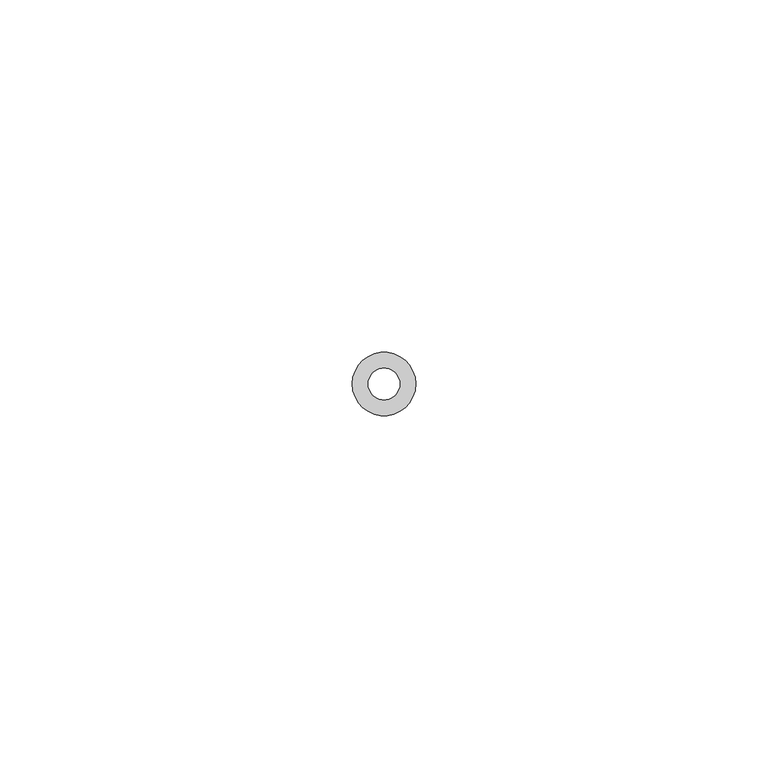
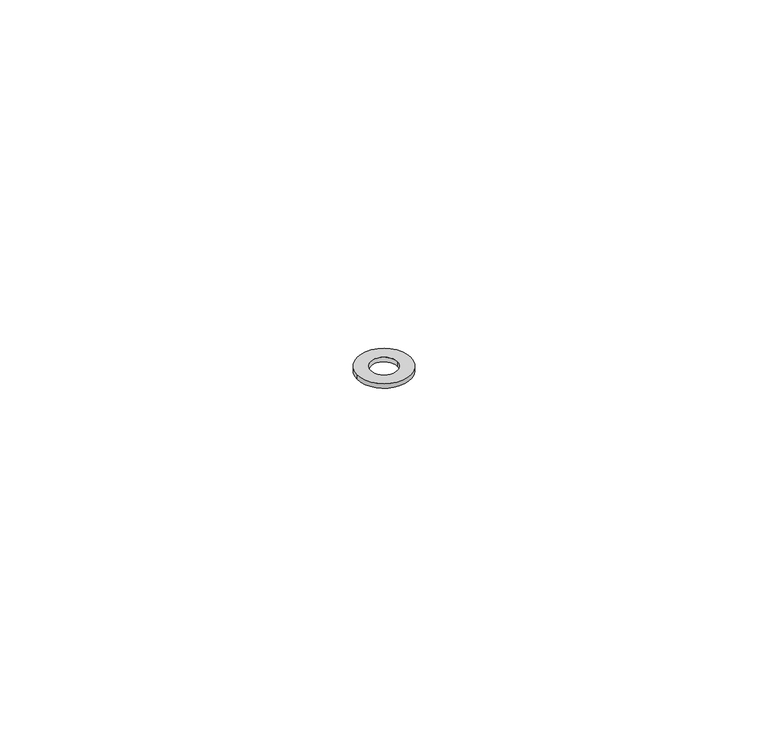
"""IFC4 building model written with IfcOpenShell, lengths in millimetres: valve geometry, Superfix Flat Washer : Superfix Flat Washer Extra + M4x10x1."""

from ifc_helpers import new_model, si_unit, point, origin, origin_with_axes, origin_2d, place, context, project, spatial, circle_curve, trimmed, segment, composite_curve, outline, extrude, source, transform, mapped, element, save


def valve_76fbe92c(model_context):
    return source(origin(), model_context, "Body", "SweptSolid", [
        extrude(outline(composite_curve([segment(trimmed(circle_curve(origin_2d(), 4.5), [point((-4.5, 0.0))], [point((4.5, 0.0))], False, "CARTESIAN"), True, "CONTINUOUS"), segment(trimmed(circle_curve(origin_2d(), 4.5), [point((4.5, 0.0))], [point((-4.5, 0.0))], False, "CARTESIAN"), True, "CONTINUOUS")], self_intersect=False), holes=[composite_curve([segment(trimmed(circle_curve(origin_2d(), 2.25), [point((-2.25, 0.0))], [point((2.25, 0.0))], True, "CARTESIAN"), True, "CONTINUOUS"), segment(trimmed(circle_curve(origin_2d(), 2.25), [point((2.25, 0.0))], [point((-2.25, 0.0))], True, "CARTESIAN"), True, "CONTINUOUS")], self_intersect=False)]), origin_with_axes(), (0.0, 0.0, 1.0), 0.8),
    ])


if __name__ == "__main__":
    model = new_model("IFC4")
    model_context = context("Model", 3, world=origin())
    ifc_project = project(units=[si_unit("LENGTHUNIT", "METRE", prefix="MILLI")], contexts=[model_context])
    site = spatial("IfcSite", under=ifc_project)
    building = spatial("IfcBuilding", under=site)
    placement = place(None, origin())
    valve_shape = valve_76fbe92c(model_context)
    element("IfcValve", 1, ObjectType="Superfix Flat Washer : Superfix Flat Washer Extra + M4x10x1", at=placement, inside=building, context=model_context, shape_type="MappedRepresentation", body=[
        mapped(valve_shape, transform((0.0, 0.0, 0.0), x_axis=(1.0, 0.0, 0.0), y_axis=(0.0, 1.0, 0.0), z_axis=(0.0, 0.0, 1.0))),
    ])
    save(model, "model.ifc")
